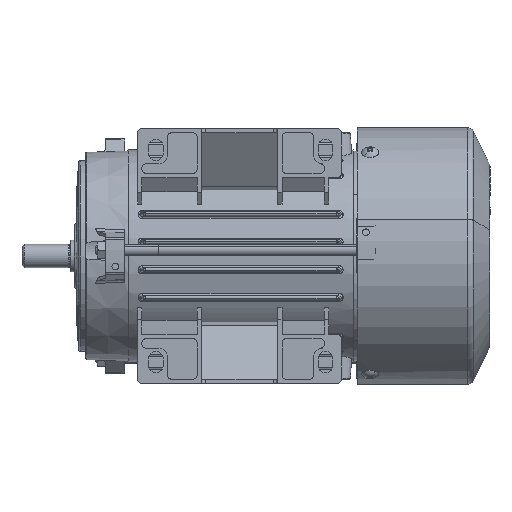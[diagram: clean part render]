
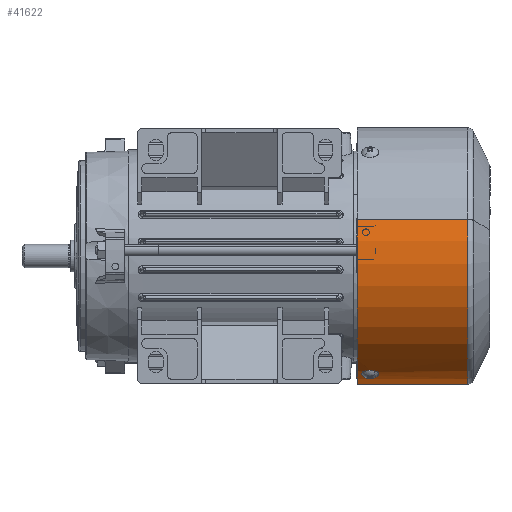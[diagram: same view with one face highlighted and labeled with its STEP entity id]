
A CAD part, front view. The second image highlights one B-rep face of the part: STEP entity #41622.
In plain terms, the highlighted cylindrical face has radius 60.5 mm (diameter 121 mm), a partial arc.
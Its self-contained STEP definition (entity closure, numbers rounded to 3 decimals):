
#4121 = DIRECTION ( 'NONE',  ( 0., 1., 0. ) ) ;
#4716 = EDGE_CURVE ( 'NONE', #97467, #100421, #58726, .T. ) ;
#6953 = CARTESIAN_POINT ( 'NONE',  ( -9.105, 57.505, -59.811 ) ) ;
#7168 = CARTESIAN_POINT ( 'NONE',  ( -6.373, 54.752, -60.164 ) ) ;
#7285 = ORIENTED_EDGE ( 'NONE', *, *, #45976, .T. ) ;
#7291 = CARTESIAN_POINT ( 'NONE',  ( -6.734, 58.398, -60.124 ) ) ;
#7497 = CARTESIAN_POINT ( 'NONE',  ( -9.092, 55.497, -59.813 ) ) ;
#7771 = EDGE_CURVE ( 'NONE', #85187, #29354, #54582, .T. ) ;
#14731 = CARTESIAN_POINT ( 'NONE',  ( -8.685, 58.005, -59.874 ) ) ;
#14945 = CARTESIAN_POINT ( 'NONE',  ( -7.113, 54.5, -60.081 ) ) ;
#15068 = CARTESIAN_POINT ( 'NONE',  ( -6.379, 58.237, -60.163 ) ) ;
#15193 = CARTESIAN_POINT ( 'NONE',  ( 60.5, 139.861, 0. ) ) ;
#15296 = CARTESIAN_POINT ( 'NONE',  ( -9.253, 55.856, -59.788 ) ) ;
#16582 = CARTESIAN_POINT ( 'NONE',  ( 0., 139.861, 0. ) ) ;
#17750 = CYLINDRICAL_SURFACE ( 'NONE', #71552, 60.5 ) ;
#22192 = CARTESIAN_POINT ( 'NONE',  ( -9.354, 56.5, -59.772 ) ) ;
#22539 = CARTESIAN_POINT ( 'NONE',  ( -8.367, 58.235, -59.919 ) ) ;
#22756 = CARTESIAN_POINT ( 'NONE',  ( -7.633, 54.513, -60.017 ) ) ;
#22876 = CARTESIAN_POINT ( 'NONE',  ( -6.06, 58.007, -60.196 ) ) ;
#23097 = CARTESIAN_POINT ( 'NONE',  ( -9.341, 56.237, -59.775 ) ) ;
#23239 = AXIS2_PLACEMENT_3D ( 'NONE', #45063, #99176, #52830 ) ;
#25934 = CARTESIAN_POINT ( 'NONE',  ( -5.384, 56.5, -60.26 ) ) ;
#28579 = DIRECTION ( 'NONE',  ( 0., 1., 0. ) ) ;
#29354 = VERTEX_POINT ( 'NONE', #67432 ) ;
#29927 = CARTESIAN_POINT ( 'NONE',  ( -9.354, 56.761, -59.772 ) ) ;
#30145 = CARTESIAN_POINT ( 'NONE',  ( -5.448, 55.982, -60.254 ) ) ;
#30264 = CARTESIAN_POINT ( 'NONE',  ( -8.014, 58.397, -59.967 ) ) ;
#30466 = CARTESIAN_POINT ( 'NONE',  ( -8.011, 54.602, -59.967 ) ) ;
#30588 = CARTESIAN_POINT ( 'NONE',  ( -5.794, 57.722, -60.222 ) ) ;
#30804 = CARTESIAN_POINT ( 'NONE',  ( -9.354, 56.5, -59.772 ) ) ;
#32098 = DIRECTION ( 'NONE',  ( 0., 1., 0. ) ) ;
#32598 = CARTESIAN_POINT ( 'NONE',  ( 60.5, 62.5, 0. ) ) ;
#34580 = VECTOR ( 'NONE', #69275, 1000. ) ;
#34689 = CARTESIAN_POINT ( 'NONE',  ( 60.5, 10.474, 0. ) ) ;
#37288 = CARTESIAN_POINT ( 'NONE',  ( -5.384, 56.368, -60.26 ) ) ;
#37966 = CARTESIAN_POINT ( 'NONE',  ( -5.586, 55.613, -60.242 ) ) ;
#38088 = CARTESIAN_POINT ( 'NONE',  ( -7.634, 58.487, -60.017 ) ) ;
#38313 = CARTESIAN_POINT ( 'NONE',  ( -8.367, 54.765, -59.919 ) ) ;
#38446 = CARTESIAN_POINT ( 'NONE',  ( -5.586, 57.388, -60.242 ) ) ;
#39394 = FACE_OUTER_BOUND ( 'NONE', #87884, .T. ) ;
#40656 = ORIENTED_EDGE ( 'NONE', *, *, #70902, .F. ) ;
#41622 = ADVANCED_FACE ( 'NONE', ( #39394, #59911 ), #17750, .T. ) ;
#45063 = CARTESIAN_POINT ( 'NONE',  ( 0., 62.5, 0. ) ) ;
#45776 = CARTESIAN_POINT ( 'NONE',  ( -5.792, 55.281, -60.222 ) ) ;
#45897 = CARTESIAN_POINT ( 'NONE',  ( -7.244, 58.5, -60.065 ) ) ;
#45976 = EDGE_CURVE ( 'NONE', #85242, #84842, #73845, .T. ) ;
#46105 = CARTESIAN_POINT ( 'NONE',  ( -8.682, 54.992, -59.874 ) ) ;
#46224 = CARTESIAN_POINT ( 'NONE',  ( -5.384, 56.764, -60.26 ) ) ;
#51385 = LINE ( 'NONE', #81561, #90053 ) ;
#51404 = EDGE_LOOP ( 'NONE', ( #64952, #74104 ) ) ;
#52830 = DIRECTION ( 'NONE',  ( -1., 0., 0. ) ) ;
#53317 = CARTESIAN_POINT ( 'NONE',  ( -9.302, 57.024, -59.781 ) ) ;
#53521 = CARTESIAN_POINT ( 'NONE',  ( -6.151, 54.901, -60.187 ) ) ;
#53639 = CARTESIAN_POINT ( 'NONE',  ( -6.86, 58.437, -60.11 ) ) ;
#53864 = CARTESIAN_POINT ( 'NONE',  ( -8.949, 55.28, -59.835 ) ) ;
#54223 = EDGE_CURVE ( 'NONE', #84842, #100421, #51385, .T. ) ;
#54582 = B_SPLINE_CURVE_WITH_KNOTS ( 'NONE', 3,
 ( #76478, #37288, #83934, #30145, #84269, #37966, #92053, #45776, #99855, #53521, #7168, #61291, #14945, #69048, #22756, #76832, #30466, #84615, #38313, #92387, #46105, #100192, #53864, #7497, #61624, #15296, #69366, #23097, #77171, #30804 ),
 .UNSPECIFIED., .F., .F.,
 ( 4, 2, 2, 2, 2, 2, 2, 2, 2, 2, 2, 2, 2, 2, 4 ),
 ( 0., 0., 0.001, 0.001, 0.002, 0.002, 0.003, 0.004, 0.004, 0.004, 0.005, 0.005, 0.005, 0.006, 0.006 ),
 .UNSPECIFIED. ) ;
#56970 = B_SPLINE_CURVE_WITH_KNOTS ( 'NONE', 3,
 ( #22192, #29927, #53317, #6953, #61073, #14731, #68838, #22539, #76605, #30264, #84399, #38088, #92182, #45897, #99976, #53639, #7291, #61418, #15068, #69159, #22876, #76956, #30588, #84732, #38446, #92510, #46224, #100311 ),
 .UNSPECIFIED., .F., .F.,
 ( 4, 2, 2, 2, 2, 2, 2, 2, 2, 2, 2, 2, 2, 4 ),
 ( 0.006, 0.007, 0.008, 0.008, 0.009, 0.009, 0.009, 0.01, 0.01, 0.011, 0.011, 0.011, 0.012, 0.013 ),
 .UNSPECIFIED. ) ;
#57615 = LINE ( 'NONE', #15193, #34580 ) ;
#58726 = CIRCLE ( 'NONE', #23239, 60.5 ) ;
#59911 = FACE_BOUND ( 'NONE', #51404, .T. ) ;
#61073 = CARTESIAN_POINT ( 'NONE',  ( -8.958, 57.729, -59.833 ) ) ;
#61291 = CARTESIAN_POINT ( 'NONE',  ( -6.852, 54.553, -60.111 ) ) ;
#61418 = CARTESIAN_POINT ( 'NONE',  ( -6.493, 58.298, -60.151 ) ) ;
#61624 = CARTESIAN_POINT ( 'NONE',  ( -9.154, 55.614, -59.803 ) ) ;
#62994 = ORIENTED_EDGE ( 'NONE', *, *, #54223, .T. ) ;
#64952 = ORIENTED_EDGE ( 'NONE', *, *, #7771, .F. ) ;
#67432 = CARTESIAN_POINT ( 'NONE',  ( -9.354, 56.5, -59.772 ) ) ;
#67687 = EDGE_CURVE ( 'NONE', #29354, #85187, #56970, .T. ) ;
#68838 = CARTESIAN_POINT ( 'NONE',  ( -8.583, 58.09, -59.888 ) ) ;
#69048 = CARTESIAN_POINT ( 'NONE',  ( -7.502, 54.5, -60.033 ) ) ;
#69159 = CARTESIAN_POINT ( 'NONE',  ( -6.163, 58.092, -60.185 ) ) ;
#69275 = DIRECTION ( 'NONE',  ( 0., 1., 0. ) ) ;
#69366 = CARTESIAN_POINT ( 'NONE',  ( -9.291, 55.981, -59.782 ) ) ;
#70902 = EDGE_CURVE ( 'NONE', #85242, #97467, #57615, .T. ) ;
#71552 = AXIS2_PLACEMENT_3D ( 'NONE', #16582, #32098, #93011 ) ;
#73845 = CIRCLE ( 'NONE', #99723, 60.5 ) ;
#74104 = ORIENTED_EDGE ( 'NONE', *, *, #67687, .F. ) ;
#74911 = CARTESIAN_POINT ( 'NONE',  ( 0., 10.474, 0. ) ) ;
#76478 = CARTESIAN_POINT ( 'NONE',  ( -5.384, 56.5, -60.26 ) ) ;
#76605 = CARTESIAN_POINT ( 'NONE',  ( -8.254, 58.297, -59.934 ) ) ;
#76832 = CARTESIAN_POINT ( 'NONE',  ( -7.888, 54.564, -59.984 ) ) ;
#76956 = CARTESIAN_POINT ( 'NONE',  ( -5.876, 57.823, -60.214 ) ) ;
#77171 = CARTESIAN_POINT ( 'NONE',  ( -9.354, 56.369, -59.772 ) ) ;
#81561 = CARTESIAN_POINT ( 'NONE',  ( -60.5, 139.861, 0. ) ) ;
#82709 = DIRECTION ( 'NONE',  ( -1., 0., 0. ) ) ;
#83458 = ORIENTED_EDGE ( 'NONE', *, *, #4716, .F. ) ;
#83934 = CARTESIAN_POINT ( 'NONE',  ( -5.397, 56.238, -60.259 ) ) ;
#84269 = CARTESIAN_POINT ( 'NONE',  ( -5.486, 55.855, -60.251 ) ) ;
#84399 = CARTESIAN_POINT ( 'NONE',  ( -7.888, 58.436, -59.984 ) ) ;
#84615 = CARTESIAN_POINT ( 'NONE',  ( -8.251, 54.702, -59.935 ) ) ;
#84732 = CARTESIAN_POINT ( 'NONE',  ( -5.648, 57.504, -60.236 ) ) ;
#84842 = VERTEX_POINT ( 'NONE', #88842 ) ;
#85187 = VERTEX_POINT ( 'NONE', #25934 ) ;
#85242 = VERTEX_POINT ( 'NONE', #34689 ) ;
#87884 = EDGE_LOOP ( 'NONE', ( #40656, #7285, #62994, #83458 ) ) ;
#88842 = CARTESIAN_POINT ( 'NONE',  ( -60.5, 10.474, 0. ) ) ;
#89766 = CARTESIAN_POINT ( 'NONE',  ( -60.5, 62.5, 0. ) ) ;
#90053 = VECTOR ( 'NONE', #4121, 1000. ) ;
#92053 = CARTESIAN_POINT ( 'NONE',  ( -5.647, 55.498, -60.236 ) ) ;
#92182 = CARTESIAN_POINT ( 'NONE',  ( -7.506, 58.5, -60.033 ) ) ;
#92387 = CARTESIAN_POINT ( 'NONE',  ( -8.582, 54.909, -59.888 ) ) ;
#92510 = CARTESIAN_POINT ( 'NONE',  ( -5.437, 57.027, -60.255 ) ) ;
#93011 = DIRECTION ( 'NONE',  ( -1., 0., 0. ) ) ;
#97467 = VERTEX_POINT ( 'NONE', #32598 ) ;
#99176 = DIRECTION ( 'NONE',  ( 0., 1., 0. ) ) ;
#99723 = AXIS2_PLACEMENT_3D ( 'NONE', #74911, #28579, #82709 ) ;
#99855 = CARTESIAN_POINT ( 'NONE',  ( -5.876, 55.178, -60.214 ) ) ;
#99976 = CARTESIAN_POINT ( 'NONE',  ( -7.114, 58.487, -60.08 ) ) ;
#100192 = CARTESIAN_POINT ( 'NONE',  ( -8.867, 55.179, -59.847 ) ) ;
#100311 = CARTESIAN_POINT ( 'NONE',  ( -5.384, 56.5, -60.26 ) ) ;
#100421 = VERTEX_POINT ( 'NONE', #89766 ) ;
